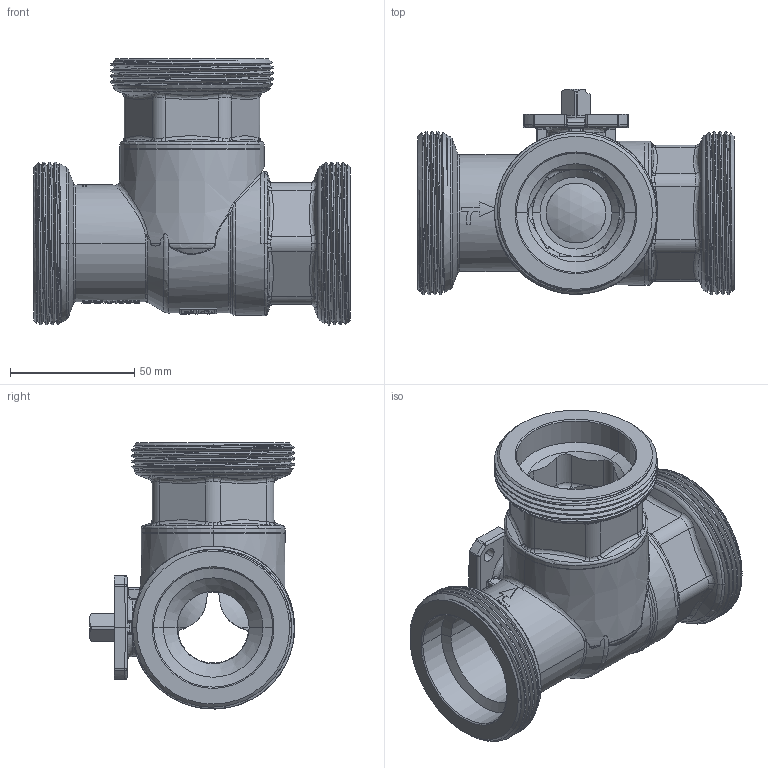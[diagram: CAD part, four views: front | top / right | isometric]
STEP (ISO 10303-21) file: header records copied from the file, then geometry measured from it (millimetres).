
FILE_DESCRIPTION((''),'2;1');
FILE_NAME('H988T1040_2314_SW3','2015-05-11T',('64ciro'),('Vir spa'),'PRO/ENGINEER BY PARAMETRIC TECHNOLOGY CORPORATION, 2010280','PRO/ENGINEER BY PARAMETRIC TECHNOLOGY CORPORATION, 2010280','');
FILE_SCHEMA(('CONFIG_CONTROL_DESIGN'));
Products named in the file (1): H988T1040_2314_SW3
Bounding box: 127.4 x 82.6 x 107.1 mm (x, y, z)
Volume: 239291.9 mm3; surface area: 87465.1 mm2
Topology: 1 solids, 2 shells, 1037 faces, 2610 edges, 1625 vertices
Faces by surface type: cylinder 273, plane 237, bspline 184, extrusion 181, cone 88, torus 59, sphere 15
Entity records: 50115 total; most frequent: CARTESIAN_POINT 27509, ORIENTED_EDGE 5220, DIRECTION 3780, EDGE_CURVE 2610, VERTEX_POINT 1625, AXIS2_PLACEMENT_3D 1366, B_SPLINE_CURVE_WITH_KNOTS 1230, EDGE_LOOP 1105
